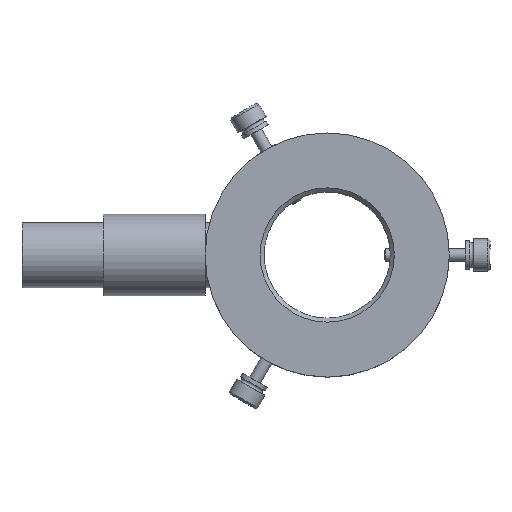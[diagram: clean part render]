
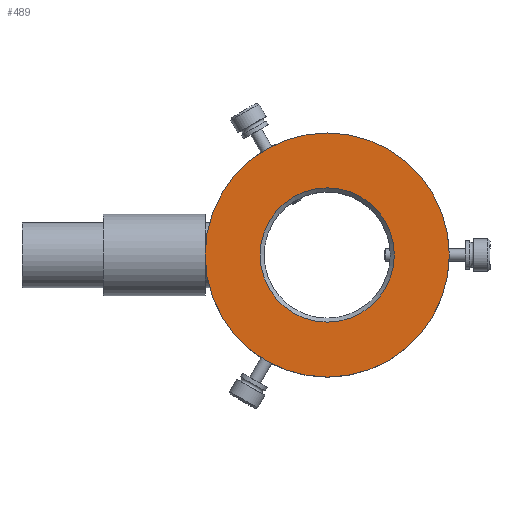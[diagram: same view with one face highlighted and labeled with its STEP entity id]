
A CAD part, top view. The second image highlights one B-rep face of the part: STEP entity #489.
In plain terms, the highlighted planar face has unit normal (0, 0, 1).
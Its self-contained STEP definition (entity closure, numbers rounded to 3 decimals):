
#56=FACE_BOUND('',#192,.T.);
#65=PLANE('',#560);
#148=FACE_OUTER_BOUND('',#191,.T.);
#191=EDGE_LOOP('',(#425));
#192=EDGE_LOOP('',(#426));
#225=CIRCLE('',#552,30.);
#227=CIRCLE('',#556,16.5);
#266=VERTEX_POINT('',#1031);
#268=VERTEX_POINT('',#1038);
#317=EDGE_CURVE('',#266,#266,#225,.T.);
#320=EDGE_CURVE('',#268,#268,#227,.T.);
#425=ORIENTED_EDGE('',*,*,#317,.T.);
#426=ORIENTED_EDGE('',*,*,#320,.F.);
#489=ADVANCED_FACE('',(#148,#56),#65,.T.);
#552=AXIS2_PLACEMENT_3D('',#1032,#661,#662);
#556=AXIS2_PLACEMENT_3D('',#1039,#670,#671);
#560=AXIS2_PLACEMENT_3D('',#1047,#680,#681);
#661=DIRECTION('center_axis',(0.,0.,1.));
#662=DIRECTION('ref_axis',(1.,0.,0.));
#670=DIRECTION('center_axis',(0.,0.,1.));
#671=DIRECTION('ref_axis',(1.,0.,0.));
#680=DIRECTION('center_axis',(0.,0.,1.));
#681=DIRECTION('ref_axis',(1.,0.,0.));
#1031=CARTESIAN_POINT('',(-30.,0.,22.));
#1032=CARTESIAN_POINT('Origin',(0.,0.,22.));
#1038=CARTESIAN_POINT('',(-16.5,0.,22.));
#1039=CARTESIAN_POINT('Origin',(0.,0.,22.));
#1047=CARTESIAN_POINT('Origin',(0.,0.,22.));
